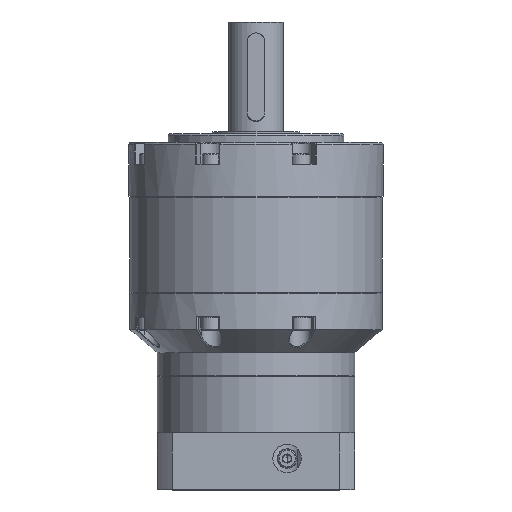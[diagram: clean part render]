
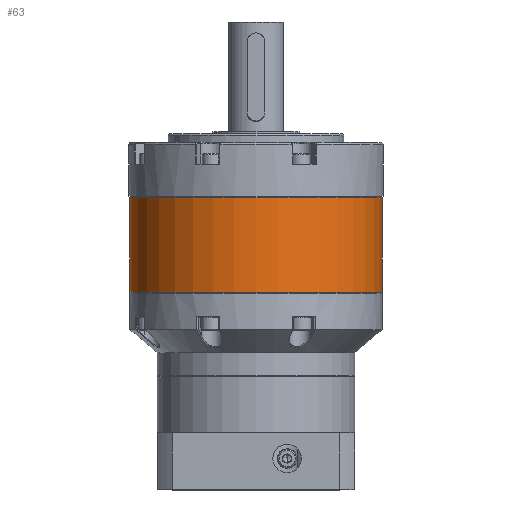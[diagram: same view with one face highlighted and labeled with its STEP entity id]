
A CAD part, top view. The second image highlights one B-rep face of the part: STEP entity #63.
In plain terms, the highlighted cylindrical face has radius 57.5 mm (diameter 115 mm), a partial arc.
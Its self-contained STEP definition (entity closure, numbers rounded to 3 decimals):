
#13 = EDGE_CURVE ( 'NONE', #15, #16, #1045, .T. ) ;
#15 = VERTEX_POINT ( 'NONE', #1049 ) ;
#16 = VERTEX_POINT ( 'NONE', #1039 ) ;
#39 = EDGE_LOOP ( 'NONE', ( #41, #60, #55, #48 ) ) ;
#41 = ORIENTED_EDGE ( 'NONE', *, *, #58, .T. ) ;
#48 = ORIENTED_EDGE ( 'NONE', *, *, #57, .F. ) ;
#54 = VERTEX_POINT ( 'NONE', #1100 ) ;
#55 = ORIENTED_EDGE ( 'NONE', *, *, #13, .F. ) ;
#57 = EDGE_CURVE ( 'NONE', #25448, #15, #1111, .T. ) ;
#58 = EDGE_CURVE ( 'NONE', #25448, #54, #1116, .T. ) ;
#60 = ORIENTED_EDGE ( 'NONE', *, *, #62, .T. ) ;
#62 = EDGE_CURVE ( 'NONE', #54, #16, #1152, .T. ) ;
#63 = ADVANCED_FACE ( 'NONE', ( #1158 ), #1145, .T. ) ;
#1039 = CARTESIAN_POINT ( 'NONE',  ( 0., 43.8, -57.5 ) ) ;
#1040 = DIRECTION ( 'NONE',  ( 0., 0., 1. ) ) ;
#1041 = DIRECTION ( 'NONE',  ( 0., 1., 0. ) ) ;
#1042 = AXIS2_PLACEMENT_3D ( 'NONE', #1050, #1041, #1040 ) ;
#1045 = CIRCLE ( 'NONE', #1042, 57.5 ) ;
#1049 = CARTESIAN_POINT ( 'NONE',  ( 0., 43.8, 57.5 ) ) ;
#1050 = CARTESIAN_POINT ( 'NONE',  ( 0., 43.8, 0. ) ) ;
#1098 = CARTESIAN_POINT ( 'NONE',  ( 0., 76.967, -57.5 ) ) ;
#1099 = CARTESIAN_POINT ( 'NONE',  ( 0., 76.967, 0. ) ) ;
#1100 = CARTESIAN_POINT ( 'NONE',  ( 0., 0.5, -57.5 ) ) ;
#1105 = AXIS2_PLACEMENT_3D ( 'NONE', #1159, #1148, #1147 ) ;
#1111 = LINE ( 'NONE', #1157, #1156 ) ;
#1116 = CIRCLE ( 'NONE', #1105, 57.5 ) ;
#1140 = DIRECTION ( 'NONE',  ( 0., 0., 1. ) ) ;
#1143 = DIRECTION ( 'NONE',  ( 0., 1., 0. ) ) ;
#1144 = DIRECTION ( 'NONE',  ( 0., 1., 0. ) ) ;
#1145 = CYLINDRICAL_SURFACE ( 'NONE', #1153, 57.5 ) ;
#1146 = VECTOR ( 'NONE', #1144, 1000. ) ;
#1147 = DIRECTION ( 'NONE',  ( 0., 0., 1. ) ) ;
#1148 = DIRECTION ( 'NONE',  ( 0., 1., 0. ) ) ;
#1152 = LINE ( 'NONE', #1098, #1146 ) ;
#1153 = AXIS2_PLACEMENT_3D ( 'NONE', #1099, #1143, #1140 ) ;
#1155 = DIRECTION ( 'NONE',  ( 0., 1., 0. ) ) ;
#1156 = VECTOR ( 'NONE', #1155, 1000. ) ;
#1157 = CARTESIAN_POINT ( 'NONE',  ( 0., 76.967, 57.5 ) ) ;
#1158 = FACE_OUTER_BOUND ( 'NONE', #39, .T. ) ;
#1159 = CARTESIAN_POINT ( 'NONE',  ( 0., 0.5, 0. ) ) ;
#22761 = CARTESIAN_POINT ( 'NONE',  ( 0., 0.5, 57.5 ) ) ;
#25448 = VERTEX_POINT ( 'NONE', #22761 ) ;
